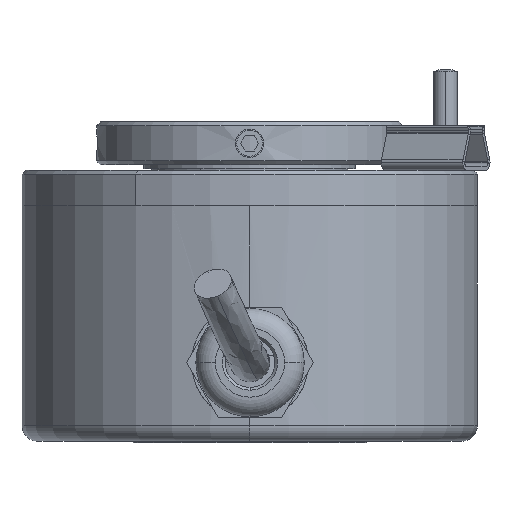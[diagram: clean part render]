
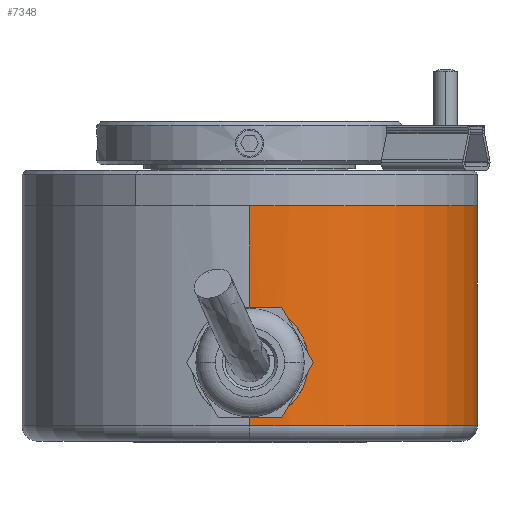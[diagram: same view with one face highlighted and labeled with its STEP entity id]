
A CAD part, front view. The second image highlights one B-rep face of the part: STEP entity #7348.
In plain terms, the highlighted cylindrical face has radius 29 mm (diameter 58 mm), a partial arc.
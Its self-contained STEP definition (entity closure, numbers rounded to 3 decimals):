
#15 = CARTESIAN_POINT ( 'NONE',  ( 0.728, -32.921, -18.05 ) ) ;
#29 = CARTESIAN_POINT ( 'NONE',  ( 4.119, -32.723, -16.523 ) ) ;
#77 = DIRECTION ( 'NONE',  ( 0., 0., 1. ) ) ;
#82 = DIRECTION ( 'NONE',  ( 0., -1., 0. ) ) ;
#102 = CARTESIAN_POINT ( 'NONE',  ( 1.901, -32.899, -17.904 ) ) ;
#115 = DIRECTION ( 'NONE',  ( 0., 0., -1. ) ) ;
#158 = CARTESIAN_POINT ( 'NONE',  ( 0.728, -32.921, 5.45 ) ) ;
#163 = DIRECTION ( 'NONE',  ( 0., -1., 0. ) ) ;
#190 = CARTESIAN_POINT ( 'NONE',  ( 1.026, -32.921, -18.05 ) ) ;
#278 = CARTESIAN_POINT ( 'NONE',  ( 5.199, -32.575, -14.137 ) ) ;
#279 = CARTESIAN_POINT ( 'NONE',  ( 5.085, -32.592, -14.713 ) ) ;
#280 = CARTESIAN_POINT ( 'NONE',  ( 4.635, -32.657, -15.802 ) ) ;
#281 = CARTESIAN_POINT ( 'NONE',  ( 4.309, -32.7, -16.292 ) ) ;
#282 = CARTESIAN_POINT ( 'NONE',  ( 4.998, -32.605, -14.999 ) ) ;
#283 = CARTESIAN_POINT ( 'NONE',  ( 4.773, -32.638, -15.544 ) ) ;
#284 = CARTESIAN_POINT ( 'NONE',  ( 5.228, -32.57, -13.25 ) ) ;
#285 = CARTESIAN_POINT ( 'NONE',  ( 5.228, -32.57, -13.844 ) ) ;
#286 = CARTESIAN_POINT ( 'NONE',  ( 5.083, -32.593, -12.381 ) ) ;
#287 = CARTESIAN_POINT ( 'NONE',  ( 5.198, -32.575, -12.956 ) ) ;
#288 = CARTESIAN_POINT ( 'NONE',  ( 1.896, -32.899, -9.194 ) ) ;
#289 = CARTESIAN_POINT ( 'NONE',  ( 2.179, -32.886, -9.28 ) ) ;
#290 = CARTESIAN_POINT ( 'NONE',  ( 1.022, -32.921, -9.05 ) ) ;
#291 = CARTESIAN_POINT ( 'NONE',  ( 1.314, -32.917, -9.079 ) ) ;
#292 = CARTESIAN_POINT ( 'NONE',  ( 4.77, -32.639, -11.55 ) ) ;
#293 = CARTESIAN_POINT ( 'NONE',  ( 4.997, -32.606, -12.096 ) ) ;
#294 = CARTESIAN_POINT ( 'NONE',  ( 4.305, -32.7, -10.804 ) ) ;
#295 = CARTESIAN_POINT ( 'NONE',  ( 4.632, -32.658, -11.292 ) ) ;
#296 = CARTESIAN_POINT ( 'NONE',  ( 4.116, -32.724, -10.573 ) ) ;
#297 = CARTESIAN_POINT ( 'NONE',  ( 3.474, -32.792, -9.973 ) ) ;
#298 = CARTESIAN_POINT ( 'NONE',  ( 3.7, -32.769, -10.159 ) ) ;
#299 = CARTESIAN_POINT ( 'NONE',  ( 2.721, -32.854, -9.505 ) ) ;
#300 = CARTESIAN_POINT ( 'NONE',  ( 2.983, -32.835, -9.645 ) ) ;
#301 = CARTESIAN_POINT ( 'NONE',  ( 0.728, -32.921, -9.05 ) ) ;
#317 = DIRECTION ( 'NONE',  ( 0., 0., -1. ) ) ;
#325 = CARTESIAN_POINT ( 'NONE',  ( 0.728, 25.079, 5.45 ) ) ;
#336 = CARTESIAN_POINT ( 'NONE',  ( 0.728, -3.921, -22.55 ) ) ;
#339 = CARTESIAN_POINT ( 'NONE',  ( 2.186, -32.886, -17.817 ) ) ;
#346 = CARTESIAN_POINT ( 'NONE',  ( 1.32, -32.917, -18.021 ) ) ;
#372 = CARTESIAN_POINT ( 'NONE',  ( 0.728, -32.921, 5.45 ) ) ;
#447 = DIRECTION ( 'NONE',  ( 0., 0., 1. ) ) ;
#477 = CARTESIAN_POINT ( 'NONE',  ( 2.727, -32.854, -17.592 ) ) ;
#478 = CARTESIAN_POINT ( 'NONE',  ( 2.987, -32.834, -17.453 ) ) ;
#479 = CARTESIAN_POINT ( 'NONE',  ( 3.705, -32.769, -16.937 ) ) ;
#480 = CARTESIAN_POINT ( 'NONE',  ( 3.479, -32.792, -17.123 ) ) ;
#493 = CARTESIAN_POINT ( 'NONE',  ( 0.728, -3.921, 5.45 ) ) ;
#527 = DIRECTION ( 'NONE',  ( 0., 0., -1. ) ) ;
#3297 = VERTEX_POINT ( 'NONE', #6270 ) ;
#3298 = VERTEX_POINT ( 'NONE', #6271 ) ;
#3304 = VERTEX_POINT ( 'NONE', #6277 ) ;
#3492 = VERTEX_POINT ( 'NONE', #6461 ) ;
#3622 = VERTEX_POINT ( 'NONE', #4567 ) ;
#3671 = VERTEX_POINT ( 'NONE', #4140 ) ;
#3892 = CARTESIAN_POINT ( 'NONE',  ( 0.728, -3.921, 5.45 ) ) ;
#3895 = DIRECTION ( 'NONE',  ( 0., 0., -1. ) ) ;
#3900 = DIRECTION ( 'NONE',  ( 0., 1., 0. ) ) ;
#4140 = CARTESIAN_POINT ( 'NONE',  ( 0.728, 25.079, -22.55 ) ) ;
#4567 = CARTESIAN_POINT ( 'NONE',  ( 0.728, -32.921, -9.05 ) ) ;
#5081 = AXIS2_PLACEMENT_3D ( 'NONE', #336, #447, #163 ) ;
#5082 = AXIS2_PLACEMENT_3D ( 'NONE', #493, #77, #82 ) ;
#5639 = AXIS2_PLACEMENT_3D ( 'NONE', #3892, #3895, #3900 ) ;
#5773 = EDGE_CURVE ( 'NONE', #3492, #3304, #7525, .T. ) ;
#5775 = EDGE_CURVE ( 'NONE', #3297, #3671, #7549, .T. ) ;
#5776 = EDGE_CURVE ( 'NONE', #3622, #3492, #8343, .T. ) ;
#5777 = EDGE_CURVE ( 'NONE', #3298, #3622, #7537, .T. ) ;
#5778 = EDGE_CURVE ( 'NONE', #3304, #3671, #7598, .T. ) ;
#5779 = EDGE_CURVE ( 'NONE', #3298, #3297, #7572, .T. ) ;
#6270 = CARTESIAN_POINT ( 'NONE',  ( 0.728, 25.079, 5.45 ) ) ;
#6271 = CARTESIAN_POINT ( 'NONE',  ( 0.728, -32.921, 5.45 ) ) ;
#6277 = CARTESIAN_POINT ( 'NONE',  ( 0.728, -32.921, -22.55 ) ) ;
#6461 = CARTESIAN_POINT ( 'NONE',  ( 0.728, -32.921, -18.05 ) ) ;
#7039 = FACE_OUTER_BOUND ( 'NONE', #9699, .T. ) ;
#7043 = CYLINDRICAL_SURFACE ( 'NONE', #5639, 29. ) ;
#7348 = ADVANCED_FACE ( 'NONE', ( #7039 ), #7043, .T. ) ;
#7466 = VECTOR ( 'NONE', #115, 1000. ) ;
#7525 = LINE ( 'NONE', #372, #7466 ) ;
#7535 = VECTOR ( 'NONE', #527, 1000. ) ;
#7537 = LINE ( 'NONE', #158, #7535 ) ;
#7546 = VECTOR ( 'NONE', #317, 1000. ) ;
#7549 = LINE ( 'NONE', #325, #7546 ) ;
#7572 = CIRCLE ( 'NONE', #5082, 29. ) ;
#7598 = CIRCLE ( 'NONE', #5081, 29. ) ;
#8343 = B_SPLINE_CURVE_WITH_KNOTS ( 'NONE', 3,
 ( #301, #290, #291, #288, #289, #299, #300, #297, #298, #296, #294, #295, #292, #293, #286, #287, #284, #285, #278, #279, #282, #283, #280, #281, #29, #479, #480, #478, #477, #339, #102, #346, #190, #15 ),
 .UNSPECIFIED., .F., .F.,
 ( 4, 2, 2, 2, 2, 2, 2, 2, 2, 2, 2, 2, 2, 2, 2, 2, 4 ),
 ( 0.014, 0.015, 0.016, 0.017, 0.018, 0.018, 0.019, 0.02, 0.021, 0.022, 0.023, 0.024, 0.025, 0.026, 0.026, 0.027, 0.028 ),
 .UNSPECIFIED. ) ;
#8741 = ORIENTED_EDGE ( 'NONE', *, *, #5779, .F. ) ;
#8745 = ORIENTED_EDGE ( 'NONE', *, *, #5776, .T. ) ;
#8748 = ORIENTED_EDGE ( 'NONE', *, *, #5773, .T. ) ;
#8749 = ORIENTED_EDGE ( 'NONE', *, *, #5778, .T. ) ;
#8765 = ORIENTED_EDGE ( 'NONE', *, *, #5775, .F. ) ;
#8785 = ORIENTED_EDGE ( 'NONE', *, *, #5777, .T. ) ;
#9699 = EDGE_LOOP ( 'NONE', ( #8741, #8785, #8745, #8748, #8749, #8765 ) ) ;
